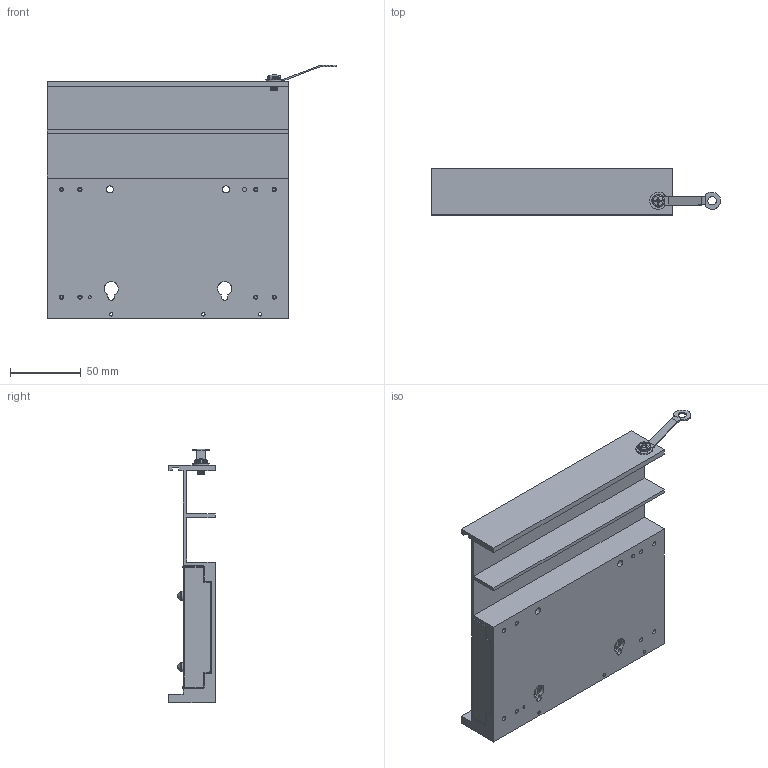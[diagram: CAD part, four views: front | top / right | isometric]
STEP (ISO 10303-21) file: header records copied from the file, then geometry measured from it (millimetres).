
FILE_DESCRIPTION((''),'2;1');
FILE_NAME('POWER_RAIL_ASSY_ASM','2009-04-28T',('administrator'),(''),'PRO/ENGINEER BY PARAMETRIC TECHNOLOGY CORPORATION, 2005110','PRO/ENGINEER BY PARAMETRIC TECHNOLOGY CORPORATION, 2005110','');
FILE_SCHEMA(('CONFIG_CONTROL_DESIGN'));
Length unit declared in the file: millimetre
Products named in the file (9): POWER_RAIL; POWER_RAIL_PCB; POWER_RAIL_CONNECTOR; DOWEL_PIN; POWER_RAIL_SIDE_CAP; A; POWER_RAIL_M3_BOLT; POWER_RAIL_M5_BOLT; POWER_RAIL_ASSY_ASM
Assembly tree (20 placements, depth 2):
  POWER_RAIL_ASSY_ASM
    POWER_RAIL
    POWER_RAIL_PCB
    POWER_RAIL_CONNECTOR  x4
    DOWEL_PIN  x2
    POWER_RAIL_SIDE_CAP  x2
    A
    POWER_RAIL_M3_BOLT  x8
    POWER_RAIL_M5_BOLT
Bounding box: 204 x 32.66 x 178.5 mm (x, y, z)
Volume: 219472.8 mm3; surface area: 182089.3 mm2
Topology: 20 solids, 20 shells, 9060 faces, 25251 edges, 16398 vertices
Faces by surface type: plane 7280, cylinder 1526, bspline 122, torus 50, cone 48, sphere 18, revolution 16
Entity records: 84826 total; most frequent: CARTESIAN_POINT 20552, ORIENTED_EDGE 13758, DIRECTION 12662, EDGE_CURVE 6879, VECTOR 5746, LINE 5746, VERTEX_POINT 4473, AXIS2_PLACEMENT_3D 3456
